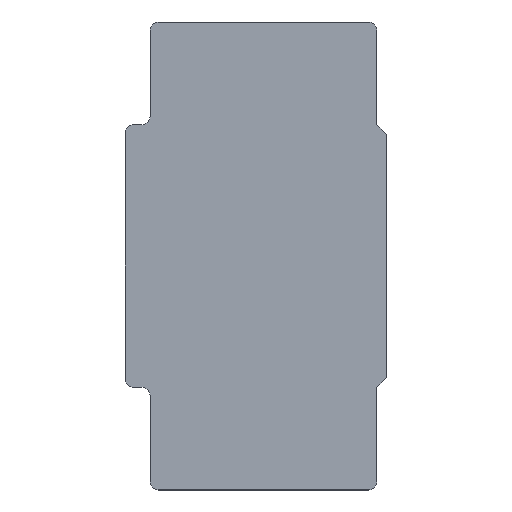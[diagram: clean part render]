
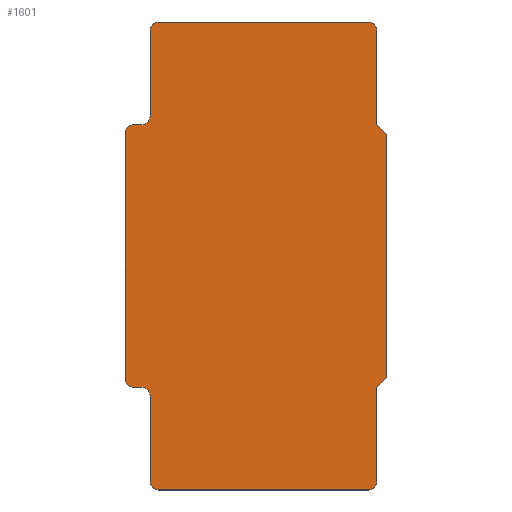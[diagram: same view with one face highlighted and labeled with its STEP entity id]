
A CAD part, top view. The second image highlights one B-rep face of the part: STEP entity #1601.
In plain terms, the highlighted planar face has unit normal (0, 0, 1).
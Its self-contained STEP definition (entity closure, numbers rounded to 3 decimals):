
#275=CARTESIAN_POINT('',(23.945,25.378,0.));
#276=DIRECTION('',(0.,0.,1.));
#277=DIRECTION('',(1.,0.,0.));
#278=AXIS2_PLACEMENT_3D('',#275,#276,#277);
#293=DIRECTION('',(-0.707,0.707,0.));
#294=VECTOR('',#293,0.849);
#295=CARTESIAN_POINT('',(25.045,19.028,0.));
#296=LINE('',#295,#294);
#305=DIRECTION('',(0.,1.,0.));
#306=VECTOR('',#305,14.8);
#307=CARTESIAN_POINT('',(25.045,4.228,0.));
#308=LINE('',#307,#306);
#325=DIRECTION('',(-0.707,-0.707,0.));
#326=VECTOR('',#325,0.849);
#327=CARTESIAN_POINT('',(25.045,4.228,0.));
#328=LINE('',#327,#326);
#342=CARTESIAN_POINT('',(23.945,-2.122,0.));
#343=DIRECTION('',(0.,0.,1.));
#344=DIRECTION('',(0.,-1.,0.));
#345=AXIS2_PLACEMENT_3D('',#342,#343,#344);
#351=CARTESIAN_POINT('',(11.145,-2.122,0.));
#352=DIRECTION('',(0.,0.,1.));
#353=DIRECTION('',(-1.,0.,0.));
#354=AXIS2_PLACEMENT_3D('',#351,#352,#353);
#378=CARTESIAN_POINT('',(10.145,3.128,0.));
#379=DIRECTION('',(0.,0.,-1.));
#380=DIRECTION('',(0.,1.,0.));
#381=AXIS2_PLACEMENT_3D('',#378,#379,#380);
#396=CARTESIAN_POINT('',(9.645,4.128,0.));
#397=DIRECTION('',(0.,0.,1.));
#398=DIRECTION('',(-1.,0.,0.));
#399=AXIS2_PLACEMENT_3D('',#396,#397,#398);
#405=DIRECTION('',(0.,-1.,0.));
#406=VECTOR('',#405,15.);
#407=CARTESIAN_POINT('',(9.145,19.128,0.));
#408=LINE('',#407,#406);
#413=CARTESIAN_POINT('',(9.645,19.128,0.));
#414=DIRECTION('',(0.,0.,1.));
#415=DIRECTION('',(0.,1.,0.));
#416=AXIS2_PLACEMENT_3D('',#413,#414,#415);
#440=CARTESIAN_POINT('',(10.145,20.128,0.));
#441=DIRECTION('',(0.,0.,-1.));
#442=DIRECTION('',(1.,0.,0.));
#443=AXIS2_PLACEMENT_3D('',#440,#441,#442);
#458=CARTESIAN_POINT('',(11.145,25.378,0.));
#459=DIRECTION('',(0.,0.,1.));
#460=DIRECTION('',(0.,1.,0.));
#461=AXIS2_PLACEMENT_3D('',#458,#459,#460);
#463=DIRECTION('',(-1.,0.,0.));
#464=VECTOR('',#463,12.8);
#465=CARTESIAN_POINT('',(23.945,25.878,0.));
#466=LINE('',#465,#464);
#471=DIRECTION('',(0.,-1.,0.));
#472=VECTOR('',#471,5.75);
#473=CARTESIAN_POINT('',(24.445,25.378,0.));
#474=LINE('',#473,#472);
#475=DIRECTION('',(0.,1.,0.));
#476=VECTOR('',#475,5.75);
#477=CARTESIAN_POINT('',(24.445,-2.122,0.));
#478=LINE('',#477,#476);
#479=DIRECTION('',(1.,0.,0.));
#480=VECTOR('',#479,12.8);
#481=CARTESIAN_POINT('',(11.145,-2.622,0.));
#482=LINE('',#481,#480);
#483=DIRECTION('',(0.,1.,0.));
#484=VECTOR('',#483,5.25);
#485=CARTESIAN_POINT('',(10.645,-2.122,0.));
#486=LINE('',#485,#484);
#487=DIRECTION('',(1.,0.,0.));
#488=VECTOR('',#487,0.5);
#489=CARTESIAN_POINT('',(9.645,3.628,0.));
#490=LINE('',#489,#488);
#491=DIRECTION('',(1.,0.,0.));
#492=VECTOR('',#491,0.5);
#493=CARTESIAN_POINT('',(9.645,19.628,0.));
#494=LINE('',#493,#492);
#495=DIRECTION('',(0.,-1.,0.));
#496=VECTOR('',#495,5.25);
#497=CARTESIAN_POINT('',(10.645,25.378,0.));
#498=LINE('',#497,#496);
#524=CARTESIAN_POINT('',(10.645,3.128,0.));
#526=VERTEX_POINT('',#524);
#528=CARTESIAN_POINT('',(10.145,3.628,0.));
#530=VERTEX_POINT('',#528);
#532=CARTESIAN_POINT('',(10.145,19.628,0.));
#534=VERTEX_POINT('',#532);
#536=CARTESIAN_POINT('',(10.645,20.128,0.));
#538=VERTEX_POINT('',#536);
#540=CARTESIAN_POINT('',(25.045,19.028,0.));
#542=VERTEX_POINT('',#540);
#544=CARTESIAN_POINT('',(24.445,19.628,0.));
#546=VERTEX_POINT('',#544);
#548=CARTESIAN_POINT('',(25.045,4.228,0.));
#550=VERTEX_POINT('',#548);
#552=CARTESIAN_POINT('',(24.445,3.628,0.));
#554=VERTEX_POINT('',#552);
#555=CARTESIAN_POINT('',(24.445,25.378,0.));
#557=VERTEX_POINT('',#555);
#559=CARTESIAN_POINT('',(23.945,25.878,0.));
#560=VERTEX_POINT('',#559);
#564=CARTESIAN_POINT('',(24.445,-2.122,0.));
#566=VERTEX_POINT('',#564);
#569=CARTESIAN_POINT('',(23.945,-2.622,0.));
#570=VERTEX_POINT('',#569);
#571=CARTESIAN_POINT('',(10.645,-2.122,0.));
#573=VERTEX_POINT('',#571);
#575=CARTESIAN_POINT('',(11.145,-2.622,0.));
#576=VERTEX_POINT('',#575);
#580=CARTESIAN_POINT('',(9.645,3.628,0.));
#582=VERTEX_POINT('',#580);
#585=CARTESIAN_POINT('',(9.145,4.128,0.));
#586=VERTEX_POINT('',#585);
#587=CARTESIAN_POINT('',(9.645,19.628,0.));
#589=VERTEX_POINT('',#587);
#591=CARTESIAN_POINT('',(9.145,19.128,0.));
#592=VERTEX_POINT('',#591);
#596=CARTESIAN_POINT('',(10.645,25.378,0.));
#598=VERTEX_POINT('',#596);
#601=CARTESIAN_POINT('',(11.145,25.878,0.));
#602=VERTEX_POINT('',#601);
#1574=CARTESIAN_POINT('',(28.588,20.685,0.));
#1575=DIRECTION('',(0.,0.,1.));
#1576=DIRECTION('',(1.,0.,0.));
#1577=AXIS2_PLACEMENT_3D('',#1574,#1575,#1576);
#1578=PLANE('',#1577);
#1579=ORIENTED_EDGE('',*,*,#1301,.F.);
#1580=ORIENTED_EDGE('',*,*,#1318,.T.);
#1581=ORIENTED_EDGE('',*,*,#1330,.F.);
#1582=ORIENTED_EDGE('',*,*,#1344,.F.);
#1583=ORIENTED_EDGE('',*,*,#1360,.T.);
#1584=ORIENTED_EDGE('',*,*,#1372,.F.);
#1585=ORIENTED_EDGE('',*,*,#1388,.F.);
#1586=ORIENTED_EDGE('',*,*,#1402,.F.);
#1587=ORIENTED_EDGE('',*,*,#1414,.F.);
#1588=ORIENTED_EDGE('',*,*,#1430,.T.);
#1589=ORIENTED_EDGE('',*,*,#1444,.F.);
#1590=ORIENTED_EDGE('',*,*,#1456,.F.);
#1591=ORIENTED_EDGE('',*,*,#1472,.F.);
#1592=ORIENTED_EDGE('',*,*,#1486,.F.);
#1593=ORIENTED_EDGE('',*,*,#1498,.F.);
#1594=ORIENTED_EDGE('',*,*,#1514,.T.);
#1595=ORIENTED_EDGE('',*,*,#1528,.F.);
#1596=ORIENTED_EDGE('',*,*,#1540,.F.);
#1597=ORIENTED_EDGE('',*,*,#1556,.F.);
#1598=ORIENTED_EDGE('',*,*,#1567,.F.);
#1599=EDGE_LOOP('',(#1579,#1580,#1581,#1582,#1583,#1584,#1585,#1586,#1587,#1588,
#1589,#1590,#1591,#1592,#1593,#1594,#1595,#1596,#1597,#1598));
#1600=FACE_OUTER_BOUND('',#1599,.F.);
#1601=ADVANCED_FACE('',(#1600),#1578,.T.);
#279=CIRCLE('',#278,0.5);
#346=CIRCLE('',#345,0.5);
#355=CIRCLE('',#354,0.5);
#382=CIRCLE('',#381,0.5);
#400=CIRCLE('',#399,0.5);
#417=CIRCLE('',#416,0.5);
#444=CIRCLE('',#443,0.5);
#462=CIRCLE('',#461,0.5);
#1301=EDGE_CURVE('',#557,#560,#279,.T.);
#1318=EDGE_CURVE('',#557,#546,#474,.T.);
#1330=EDGE_CURVE('',#542,#546,#296,.T.);
#1344=EDGE_CURVE('',#550,#542,#308,.T.);
#1360=EDGE_CURVE('',#550,#554,#328,.T.);
#1372=EDGE_CURVE('',#566,#554,#478,.T.);
#1388=EDGE_CURVE('',#570,#566,#346,.T.);
#1402=EDGE_CURVE('',#576,#570,#482,.T.);
#1414=EDGE_CURVE('',#573,#576,#355,.T.);
#1430=EDGE_CURVE('',#573,#526,#486,.T.);
#1444=EDGE_CURVE('',#530,#526,#382,.T.);
#1456=EDGE_CURVE('',#582,#530,#490,.T.);
#1472=EDGE_CURVE('',#586,#582,#400,.T.);
#1486=EDGE_CURVE('',#592,#586,#408,.T.);
#1498=EDGE_CURVE('',#589,#592,#417,.T.);
#1514=EDGE_CURVE('',#589,#534,#494,.T.);
#1528=EDGE_CURVE('',#538,#534,#444,.T.);
#1540=EDGE_CURVE('',#598,#538,#498,.T.);
#1556=EDGE_CURVE('',#602,#598,#462,.T.);
#1567=EDGE_CURVE('',#560,#602,#466,.T.);
